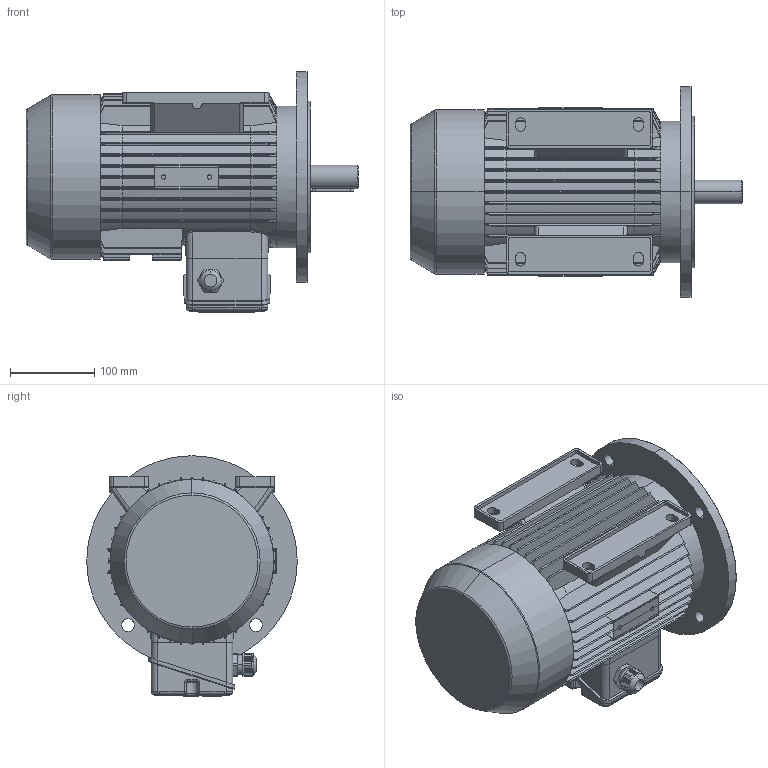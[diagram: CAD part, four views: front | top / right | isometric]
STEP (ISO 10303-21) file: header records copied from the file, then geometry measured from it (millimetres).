
FILE_DESCRIPTION (( 'STEP AP214' ), '1' );
FILE_NAME ('MAP100L4B IM2041 A250 FF215.STEP', '2020-12-22T07:46:25', ( '' ), ( '' ), 'SwSTEP 2.0', 'SolidWorks 2018', '' );
FILE_SCHEMA (( 'AUTOMOTIVE_DESIGN' ));
Length unit declared in the file: millimetre
Products named in the file (1): MAP100L4B IM2041 A250 FF215
Bounding box: 394 x 250 x 285.5 mm (x, y, z)
Volume: 9355128.6 mm3; surface area: 645472.3 mm2
Topology: 3 solids, 8 shells, 1376 faces, 3579 edges, 2230 vertices
Faces by surface type: plane 573, cylinder 344, bspline 201, cone 169, torus 87, sphere 2
Entity records: 54083 total; most frequent: CARTESIAN_POINT 22717, ORIENTED_EDGE 7110, DIRECTION 5800, EDGE_CURVE 3555, VERTEX_POINT 2230, AXIS2_PLACEMENT_3D 2080, LINE 1640, VECTOR 1640
